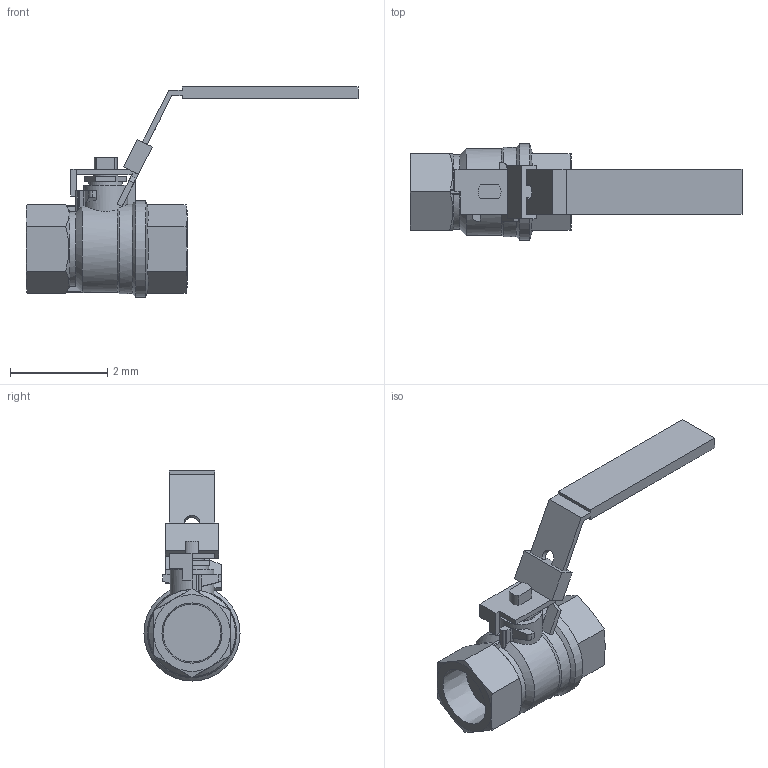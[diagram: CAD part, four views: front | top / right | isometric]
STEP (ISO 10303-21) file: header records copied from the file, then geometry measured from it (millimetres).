
FILE_DESCRIPTION(('Open CASCADE Model'),'2;1');
FILE_NAME('Open CASCADE Shape Model','2022-07-13T11:18:53',('Author'),( 'Open CASCADE'),'Open CASCADE STEP processor 7.3','Open CASCADE 7.3' ,'Unknown');
FILE_SCHEMA(('AUTOMOTIVE_DESIGN { 1 0 10303 214 1 1 1 1 }'));
Length unit declared in the file: millimetre
Products named in the file (1): Open CASCADE STEP translator 7.3 1
Bounding box: 6.84 x 1.98 x 4.33 mm (x, y, z)
Volume: 8.1 mm3; surface area: 50.4 mm2
Topology: 1 solids, 1 shells, 141 faces, 396 edges, 261 vertices
Faces by surface type: plane 96, cylinder 25, cone 20
Full cylindrical faces by diameter (mm): 0.495 x1, 0.5 x1, 0.688 x1, 1.98 x1
Entity records: 12664 total; most frequent: CARTESIAN_POINT 5267, DIRECTION 1266, LINE 808, VECTOR 808, ORIENTED_EDGE 792, PCURVE 792, DEFINITIONAL_REPRESENTATION 792, EDGE_CURVE 396
